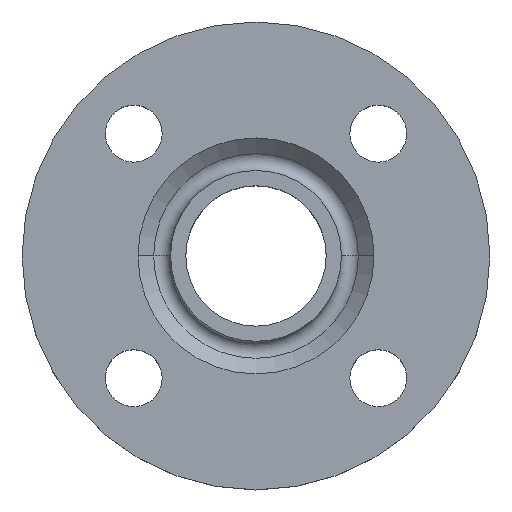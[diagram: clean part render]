
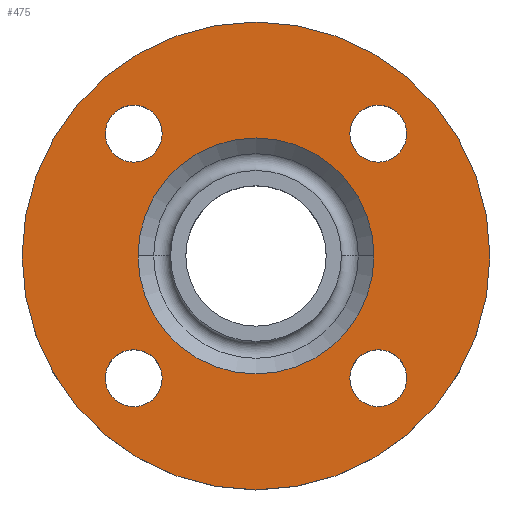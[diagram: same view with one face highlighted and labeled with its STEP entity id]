
A CAD part, top view. The second image highlights one B-rep face of the part: STEP entity #475.
In plain terms, the highlighted planar face has unit normal (0, 0, 1).
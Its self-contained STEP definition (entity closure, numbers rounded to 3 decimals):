
#5 = AXIS2_PLACEMENT_3D ( 'NONE', #177, #283, #451 ) ;
#25 = AXIS2_PLACEMENT_3D ( 'NONE', #714, #715, #716 ) ;
#65 = CARTESIAN_POINT ( 'NONE',  ( -29., 0., -2. ) ) ;
#66 = CARTESIAN_POINT ( 'NONE',  ( -23.052, -30.052, -2. ) ) ;
#67 = EDGE_CURVE ( 'NONE', #499, #662, #665, .T. ) ;
#76 = CARTESIAN_POINT ( 'NONE',  ( -37.052, -30.052, -2. ) ) ;
#78 = CARTESIAN_POINT ( 'NONE',  ( -57.5, 0., -2. ) ) ;
#80 = CARTESIAN_POINT ( 'NONE',  ( 37.052, 30.052, -2. ) ) ;
#84 = CARTESIAN_POINT ( 'NONE',  ( 23.052, -30.052, -2. ) ) ;
#86 = CARTESIAN_POINT ( 'NONE',  ( 57.5, 0., -2. ) ) ;
#89 = CARTESIAN_POINT ( 'NONE',  ( 23.052, 30.052, -2. ) ) ;
#98 = AXIS2_PLACEMENT_3D ( 'NONE', #205, #190, #207 ) ;
#100 = CIRCLE ( 'NONE', #98, 7. ) ;
#107 = CIRCLE ( 'NONE', #322, 7. ) ;
#129 = CARTESIAN_POINT ( 'NONE',  ( 37.052, -30.052, -2. ) ) ;
#146 = AXIS2_PLACEMENT_3D ( 'NONE', #160, #161, #153 ) ;
#148 = AXIS2_PLACEMENT_3D ( 'NONE', #387, #389, #390 ) ;
#153 = DIRECTION ( 'NONE',  ( 1., 0., 0. ) ) ;
#157 = CARTESIAN_POINT ( 'NONE',  ( -23.052, 30.052, -2. ) ) ;
#158 = CARTESIAN_POINT ( 'NONE',  ( 29., 0., -2. ) ) ;
#159 = PLANE ( 'NONE',  #146 ) ;
#160 = CARTESIAN_POINT ( 'NONE',  ( 57.5, 0., -2. ) ) ;
#161 = DIRECTION ( 'NONE',  ( 0., 0., 1. ) ) ;
#162 = FACE_BOUND ( 'NONE', #693, .T. ) ;
#167 = FACE_OUTER_BOUND ( 'NONE', #683, .T. ) ;
#168 = FACE_BOUND ( 'NONE', #673, .T. ) ;
#170 = FACE_BOUND ( 'NONE', #531, .T. ) ;
#171 = FACE_BOUND ( 'NONE', #649, .T. ) ;
#177 = CARTESIAN_POINT ( 'NONE',  ( 30.052, -30.052, -2. ) ) ;
#185 = EDGE_CURVE ( 'NONE', #663, #490, #346, .T. ) ;
#186 = FACE_BOUND ( 'NONE', #653, .T. ) ;
#188 = CARTESIAN_POINT ( 'NONE',  ( -30.052, 30.052, -2. ) ) ;
#190 = DIRECTION ( 'NONE',  ( 0., 0., -1. ) ) ;
#192 = DIRECTION ( 'NONE',  ( 1., 0., 0. ) ) ;
#204 = CARTESIAN_POINT ( 'NONE',  ( -30.052, 30.052, -2. ) ) ;
#205 = CARTESIAN_POINT ( 'NONE',  ( 30.052, 30.052, -2. ) ) ;
#207 = DIRECTION ( 'NONE',  ( 1., 0., 0. ) ) ;
#212 = AXIS2_PLACEMENT_3D ( 'NONE', #756, #757, #759 ) ;
#216 = DIRECTION ( 'NONE',  ( 0., 0., -1. ) ) ;
#218 = DIRECTION ( 'NONE',  ( 1., 0., 0. ) ) ;
#220 = EDGE_CURVE ( 'NONE', #621, #656, #267, .T. ) ;
#229 = CARTESIAN_POINT ( 'NONE',  ( 30.052, -30.052, -2. ) ) ;
#237 = EDGE_CURVE ( 'NONE', #490, #663, #298, .T. ) ;
#242 = EDGE_CURVE ( 'NONE', #651, #489, #336, .T. ) ;
#243 = CIRCLE ( 'NONE', #344, 7. ) ;
#257 = EDGE_CURVE ( 'NONE', #510, #647, #321, .T. ) ;
#267 = CIRCLE ( 'NONE', #212, 57.5 ) ;
#275 = CIRCLE ( 'NONE', #148, 57.5 ) ;
#283 = DIRECTION ( 'NONE',  ( 0., 0., -1. ) ) ;
#284 = AXIS2_PLACEMENT_3D ( 'NONE', #770, #771, #772 ) ;
#298 = CIRCLE ( 'NONE', #284, 29. ) ;
#302 = EDGE_CURVE ( 'NONE', #656, #621, #275, .T. ) ;
#303 = AXIS2_PLACEMENT_3D ( 'NONE', #753, #754, #755 ) ;
#313 = CIRCLE ( 'NONE', #445, 7. ) ;
#320 = EDGE_CURVE ( 'NONE', #662, #499, #107, .T. ) ;
#321 = CIRCLE ( 'NONE', #360, 7. ) ;
#322 = AXIS2_PLACEMENT_3D ( 'NONE', #420, #421, #422 ) ;
#331 = AXIS2_PLACEMENT_3D ( 'NONE', #776, #778, #779 ) ;
#335 = CIRCLE ( 'NONE', #5, 7. ) ;
#336 = CIRCLE ( 'NONE', #331, 7. ) ;
#344 = AXIS2_PLACEMENT_3D ( 'NONE', #188, #456, #192 ) ;
#346 = CIRCLE ( 'NONE', #303, 29. ) ;
#360 = AXIS2_PLACEMENT_3D ( 'NONE', #229, #793, #794 ) ;
#368 = EDGE_CURVE ( 'NONE', #690, #491, #243, .T. ) ;
#371 = EDGE_CURVE ( 'NONE', #489, #651, #100, .T. ) ;
#385 = EDGE_CURVE ( 'NONE', #491, #690, #313, .T. ) ;
#387 = CARTESIAN_POINT ( 'NONE',  ( 0., 0., -2. ) ) ;
#389 = DIRECTION ( 'NONE',  ( 0., 0., -1. ) ) ;
#390 = DIRECTION ( 'NONE',  ( -1., 0., 0. ) ) ;
#420 = CARTESIAN_POINT ( 'NONE',  ( -30.052, -30.052, -2. ) ) ;
#421 = DIRECTION ( 'NONE',  ( 0., 0., -1. ) ) ;
#422 = DIRECTION ( 'NONE',  ( 1., 0., 0. ) ) ;
#443 = EDGE_CURVE ( 'NONE', #647, #510, #335, .T. ) ;
#445 = AXIS2_PLACEMENT_3D ( 'NONE', #204, #216, #218 ) ;
#451 = DIRECTION ( 'NONE',  ( 1., 0., 0. ) ) ;
#456 = DIRECTION ( 'NONE',  ( 0., 0., -1. ) ) ;
#475 = ADVANCED_FACE ( 'NONE', ( #186, #171, #170, #162, #168, #167 ), #159, .T. ) ;
#489 = VERTEX_POINT ( 'NONE', #89 ) ;
#490 = VERTEX_POINT ( 'NONE', #158 ) ;
#491 = VERTEX_POINT ( 'NONE', #157 ) ;
#496 = CARTESIAN_POINT ( 'NONE',  ( -37.052, 30.052, -2. ) ) ;
#499 = VERTEX_POINT ( 'NONE', #66 ) ;
#510 = VERTEX_POINT ( 'NONE', #129 ) ;
#531 = EDGE_LOOP ( 'NONE', ( #567, #568 ) ) ;
#562 = ORIENTED_EDGE ( 'NONE', *, *, #257, .T. ) ;
#564 = ORIENTED_EDGE ( 'NONE', *, *, #443, .T. ) ;
#565 = ORIENTED_EDGE ( 'NONE', *, *, #67, .T. ) ;
#566 = ORIENTED_EDGE ( 'NONE', *, *, #320, .T. ) ;
#567 = ORIENTED_EDGE ( 'NONE', *, *, #385, .T. ) ;
#568 = ORIENTED_EDGE ( 'NONE', *, *, #368, .T. ) ;
#569 = ORIENTED_EDGE ( 'NONE', *, *, #242, .T. ) ;
#572 = ORIENTED_EDGE ( 'NONE', *, *, #371, .T. ) ;
#573 = ORIENTED_EDGE ( 'NONE', *, *, #237, .T. ) ;
#574 = ORIENTED_EDGE ( 'NONE', *, *, #185, .T. ) ;
#575 = ORIENTED_EDGE ( 'NONE', *, *, #220, .F. ) ;
#579 = ORIENTED_EDGE ( 'NONE', *, *, #302, .F. ) ;
#621 = VERTEX_POINT ( 'NONE', #86 ) ;
#647 = VERTEX_POINT ( 'NONE', #84 ) ;
#649 = EDGE_LOOP ( 'NONE', ( #565, #566 ) ) ;
#651 = VERTEX_POINT ( 'NONE', #80 ) ;
#653 = EDGE_LOOP ( 'NONE', ( #562, #564 ) ) ;
#656 = VERTEX_POINT ( 'NONE', #78 ) ;
#662 = VERTEX_POINT ( 'NONE', #76 ) ;
#663 = VERTEX_POINT ( 'NONE', #65 ) ;
#665 = CIRCLE ( 'NONE', #25, 7. ) ;
#673 = EDGE_LOOP ( 'NONE', ( #573, #574 ) ) ;
#683 = EDGE_LOOP ( 'NONE', ( #575, #579 ) ) ;
#690 = VERTEX_POINT ( 'NONE', #496 ) ;
#693 = EDGE_LOOP ( 'NONE', ( #569, #572 ) ) ;
#714 = CARTESIAN_POINT ( 'NONE',  ( -30.052, -30.052, -2. ) ) ;
#715 = DIRECTION ( 'NONE',  ( 0., 0., -1. ) ) ;
#716 = DIRECTION ( 'NONE',  ( 1., 0., 0. ) ) ;
#753 = CARTESIAN_POINT ( 'NONE',  ( 0., 0., -2. ) ) ;
#754 = DIRECTION ( 'NONE',  ( 0., 0., -1. ) ) ;
#755 = DIRECTION ( 'NONE',  ( -1., 0., 0. ) ) ;
#756 = CARTESIAN_POINT ( 'NONE',  ( 0., 0., -2. ) ) ;
#757 = DIRECTION ( 'NONE',  ( 0., 0., -1. ) ) ;
#759 = DIRECTION ( 'NONE',  ( -1., 0., 0. ) ) ;
#770 = CARTESIAN_POINT ( 'NONE',  ( 0., 0., -2. ) ) ;
#771 = DIRECTION ( 'NONE',  ( 0., 0., -1. ) ) ;
#772 = DIRECTION ( 'NONE',  ( -1., 0., 0. ) ) ;
#776 = CARTESIAN_POINT ( 'NONE',  ( 30.052, 30.052, -2. ) ) ;
#778 = DIRECTION ( 'NONE',  ( 0., 0., -1. ) ) ;
#779 = DIRECTION ( 'NONE',  ( 1., 0., 0. ) ) ;
#793 = DIRECTION ( 'NONE',  ( 0., 0., -1. ) ) ;
#794 = DIRECTION ( 'NONE',  ( 1., 0., 0. ) ) ;
